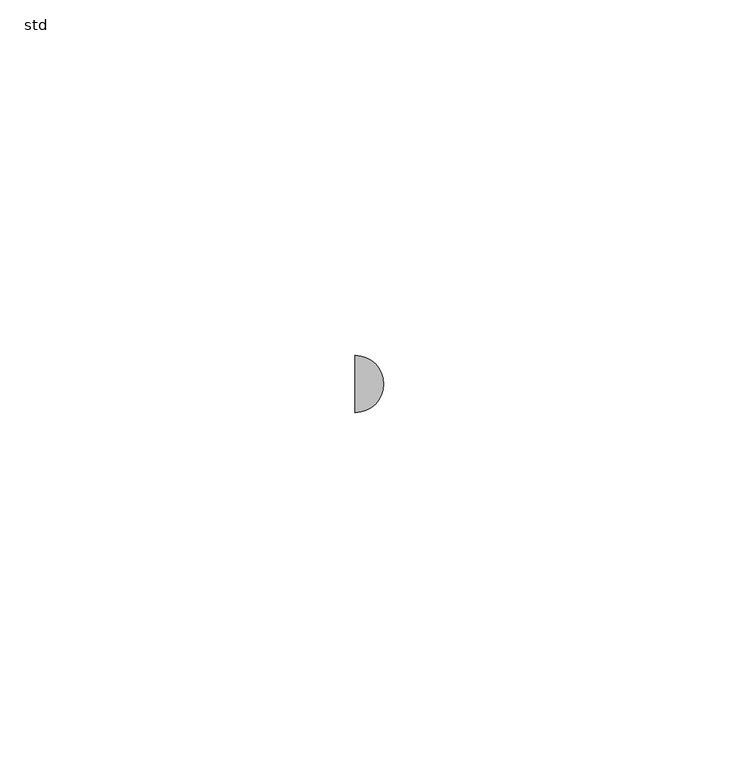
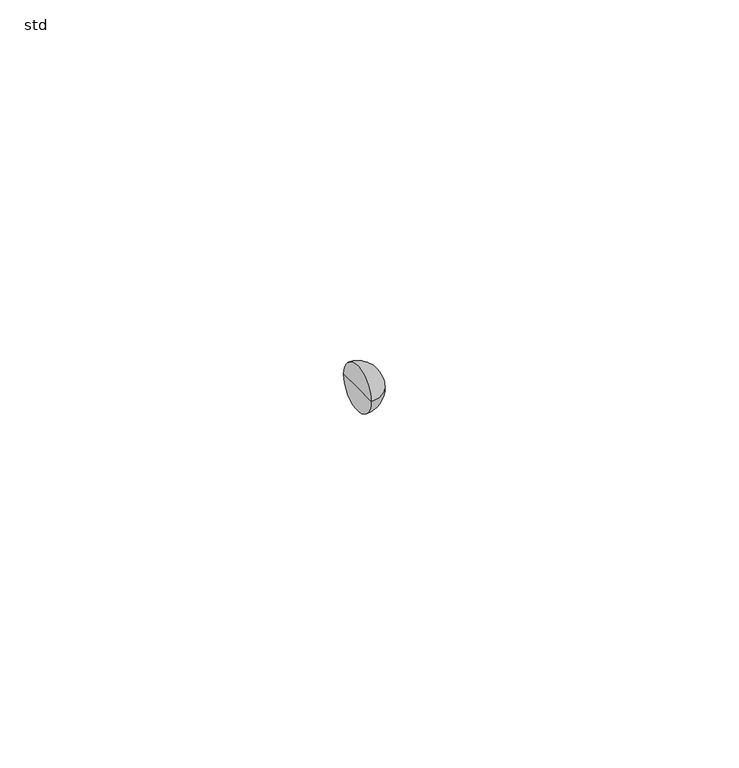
"""IFC4 building model written with IfcOpenShell, lengths in millimetres: pipe fitting geometry, PIF_ST_UN_GM-X multibranch_ACO : std."""

import ifcopenshell
import ifcopenshell.guid

model = None  # the IFC model being written
_history = None  # IfcOwnerHistory: only IFC2X3 demands one
_inside = {}  # id of a spatial element -> (the spatial element, [elements in it])
_under = {}  # id of a project, library or spatial element -> (it, [spatial elements below it])
_declared = {}  # id of a project -> (the project, [libraries it declares])
_typed = {}  # id of a type object -> (the type object, [elements of that type])
_made_of = {}  # id of a material, layer set ... -> (it, [elements and type objects made of it])


def new_model(schema):
    """Start an empty IFC model of exactly this schema.

    Asked for "IFC4X3", IfcOpenShell would pick the latest addendum, in which some entities
    have other attributes; the version numbers below select the first issue.
    IFC2X3 requires an IfcOwnerHistory on every rooted entity: one is made here for all.
    """
    global model, _history
    if schema == "IFC4X3":
        model = ifcopenshell.file(schema_version=(4, 3, 0, 0))
    else:
        model = ifcopenshell.file(schema=schema)
    _inside.clear()
    _under.clear()
    _declared.clear()
    _typed.clear()
    _made_of.clear()
    _history = None
    if model.schema == "IFC2X3":
        org = make("IfcOrganization", Name="unknown")
        user = make(
            "IfcPersonAndOrganization",
            ThePerson=make("IfcPerson", FamilyName="unknown"),
            TheOrganization=org,
        )
        app = make(
            "IfcApplication",
            ApplicationDeveloper=org,
            Version="unknown",
            ApplicationFullName="unknown",
            ApplicationIdentifier="unknown",
        )
        _history = make(
            "IfcOwnerHistory",
            OwningUser=user,
            OwningApplication=app,
            ChangeAction="ADDED",
            CreationDate=0,
        )
    return model


def make(cls, **values):
    """One entity of the class cls with the attributes given. An attribute that is None is left unset."""
    return model.create_entity(
        cls, **{name: value for name, value in values.items() if value is not None}
    )


def rooted(cls, **values):
    """An entity with a GlobalId (a new one), such as an element, a storey or a relation."""
    return make(cls, GlobalId=ifcopenshell.guid.new(), OwnerHistory=_history, **values)


def si_unit(unit_type, name, prefix=None):
    """IfcSIUnit, for example si_unit("LENGTHUNIT", "METRE", prefix="MILLI")."""
    return make("IfcSIUnit", UnitType=unit_type, Prefix=prefix, Name=name)


def assignment(units):
    """IfcUnitAssignment: the units of a project."""
    return None if units is None else make("IfcUnitAssignment", Units=units)


def point(xyz):
    """IfcCartesianPoint."""
    return None if xyz is None else make("IfcCartesianPoint", Coordinates=xyz)


def direction(xyz):
    """IfcDirection."""
    return None if xyz is None else make("IfcDirection", DirectionRatios=xyz)


def frame(location, z_axis=None, x_axis=None):
    """IfcAxis2Placement3D, a coordinate frame: its origin and axes. An axis left out is left unset."""
    return make(
        "IfcAxis2Placement3D",
        Location=point(location),
        Axis=direction(z_axis),
        RefDirection=direction(x_axis),
    )


def origin():
    """The frame at (0, 0, 0) with its axes left unset."""
    return frame((0.0, 0.0, 0.0))


def place(relative_to, where):
    """IfcLocalPlacement: puts the frame where relative to a parent placement (None: the world)."""
    return make(
        "IfcLocalPlacement", PlacementRelTo=relative_to, RelativePlacement=where
    )


def context(
    kind, dimensions, precision=None, world=None, true_north=None, identifier=None
):
    """IfcGeometricRepresentationContext, for example the 3D "Model" context."""
    return make(
        "IfcGeometricRepresentationContext",
        ContextIdentifier=identifier,
        ContextType=kind,
        CoordinateSpaceDimension=dimensions,
        Precision=precision,
        WorldCoordinateSystem=world,
        TrueNorth=true_north,
    )


def project(units=None, contexts=None):
    """IfcProject with its units and contexts."""
    return rooted(
        "IfcProject",
        Name="project",
        RepresentationContexts=contexts,
        UnitsInContext=assignment(units),
    )


def spatial(cls, under=None, at=None, **own):
    """A site, building, storey or space (cls), placed at a placement, below another one or the project."""
    s = rooted(cls, ObjectPlacement=at, **own)
    if under is not None:
        _under.setdefault(under.id(), (under, []))[1].append(s)
    return s


def circle_curve(where, radius):
    """IfcCircle in the frame where."""
    return make("IfcCircle", Position=where, Radius=radius)


def ellipse_curve(where, semi_axis1, semi_axis2):
    """IfcEllipse in the frame where."""
    return make(
        "IfcEllipse", Position=where, SemiAxis1=semi_axis1, SemiAxis2=semi_axis2
    )


def trimmed(basis, trim1, trim2, sense, master):
    """IfcTrimmedCurve: the piece of a basis curve between two trims."""
    return make(
        "IfcTrimmedCurve",
        BasisCurve=basis,
        Trim1=trim1,
        Trim2=trim2,
        SenseAgreement=sense,
        MasterRepresentation=master,
    )


def shape(context_of_items, identifier, shape_type, items):
    """IfcShapeRepresentation: the items that make up one representation, for example the "Body"."""
    return make(
        "IfcShapeRepresentation",
        ContextOfItems=context_of_items,
        RepresentationIdentifier=identifier,
        RepresentationType=shape_type,
        Items=items,
    )


def source(mapping_origin, context_of_items, identifier, shape_type, items):
    """IfcRepresentationMap: a shape defined once, which mapped items show again and again."""
    return make(
        "IfcRepresentationMap",
        MappingOrigin=mapping_origin,
        MappedRepresentation=shape(context_of_items, identifier, shape_type, items),
    )


def transform(
    local_origin,
    x_axis=None,
    y_axis=None,
    z_axis=None,
    scale=None,
    scale2=None,
    scale3=None,
    uniform=True,
):
    """IfcCartesianTransformationOperator3D, or its non-uniform kind. x_axis, y_axis, z_axis: its Axis1, 2, 3."""
    if uniform:
        return make(
            "IfcCartesianTransformationOperator3D",
            Axis1=direction(x_axis),
            Axis2=direction(y_axis),
            LocalOrigin=point(local_origin),
            Scale=scale,
            Axis3=direction(z_axis),
        )
    return make(
        "IfcCartesianTransformationOperator3DnonUniform",
        Axis1=direction(x_axis),
        Axis2=direction(y_axis),
        LocalOrigin=point(local_origin),
        Scale=scale,
        Axis3=direction(z_axis),
        Scale2=scale2,
        Scale3=scale3,
    )


def mapped(mapping_source, mapping_target):
    """IfcMappedItem: shows the shape of a source again, moved by a transform."""
    return make(
        "IfcMappedItem", MappingSource=mapping_source, MappingTarget=mapping_target
    )


def made_of(thing, what):
    """Note that an element or type object is made of a material, layer set ...; save() writes the relation."""
    if what is not None:
        _made_of.setdefault(what.id(), (what, []))[1].append(thing)
    return thing


def element(
    cls,
    number,
    at=None,
    inside=None,
    cuts=None,
    type_object=None,
    material=None,
    context=None,
    identifier="Body",
    shape_type=None,
    held_by="IfcProductDefinitionShape",
    body=None,
    shapes=None,
    **own,
):
    """One element of the class cls, such as IfcWall. Its Tag is "e" and its number.

    at: its placement. inside: the storey or other place that contains it. cuts: it is an
    opening in that element (IfcRelVoidsElement). A single representation is given by context,
    identifier, shape_type and body (its items); several are given by shapes. held_by: the class
    of the entity that holds the representations. save() writes the other relations.
    """
    e = rooted(cls, Tag="e%d" % number, ObjectPlacement=at, **own)
    if body is not None:
        shapes = [shape(context, identifier, shape_type, body)]
    if shapes is not None:
        e.Representation = make(held_by, Representations=shapes)
    if inside is not None:
        _inside.setdefault(inside.id(), (inside, []))[1].append(e)
    if cuts is not None:
        rooted(
            "IfcRelVoidsElement", RelatingBuildingElement=cuts, RelatedOpeningElement=e
        )
    if type_object is not None:
        _typed.setdefault(type_object.id(), (type_object, []))[1].append(e)
    return made_of(e, material)


def aggregate(whole, parts):
    """IfcRelAggregates: a whole, such as a stair, and the parts it consists of."""
    return rooted("IfcRelAggregates", RelatingObject=whole, RelatedObjects=parts)


def save(model, path):
    """Write the relations noted so far, then the file.

    IfcRelAggregates (storeys below a building ...), IfcRelContainedInSpatialStructure (elements
    in a storey), IfcRelDefinesByType, IfcRelAssociatesMaterial and IfcRelDeclares: one each for
    every whole, place, type object, material and project.
    """
    for whole, parts in _under.values():
        aggregate(whole, parts)
    for where, things in _inside.values():
        rooted(
            "IfcRelContainedInSpatialStructure",
            RelatedElements=things,
            RelatingStructure=where,
        )
    for kind, things in _typed.values():
        rooted("IfcRelDefinesByType", RelatedObjects=things, RelatingType=kind)
    for what, things in _made_of.values():
        rooted("IfcRelAssociatesMaterial", RelatedObjects=things, RelatingMaterial=what)
    for by, libraries in _declared.values():
        rooted("IfcRelDeclares", RelatingContext=by, RelatedDefinitions=libraries)
    model.write(path)


def plane_surface(at):
    """IfcPlane: the flat surface through the origin of the frame at, square to its z axis."""
    return make("IfcPlane", Position=at)


def revolved_surface(curve, axis_point, axis_direction):
    """IfcSurfaceOfRevolution: the curve turned about the line through axis_point along axis_direction."""
    return make(
        "IfcSurfaceOfRevolution",
        SweptCurve=make("IfcArbitraryOpenProfileDef", ProfileType="CURVE", Curve=curve),
        AxisPosition=make("IfcAxis1Placement", Location=point(axis_point), Axis=direction(axis_direction)),
    )


def advanced_brep(points, edges, surfaces, faces):
    """IfcAdvancedBrep: a solid bounded by faces that lie on surfaces and meet in shared edges.

    An edge is (start, end): straight between two places in points (the first is 0);
    or (start, end, curve); or (start, end, curve, False) where it runs against its curve.
    A face is (place in surfaces, loops), or (place, loops, False) where it looks against
    its surface's normal. A loop lists edges by number (the first is 1), with a minus sign
    where the edge is run from its end to its start. The first loop is the outer one.
    """
    corners = [point(p) for p in points]
    vertices = [make("IfcVertexPoint", VertexGeometry=c) for c in corners]
    made = []
    for start, end, *more in edges:
        made.append(
            make(
                "IfcEdgeCurve",
                EdgeStart=vertices[start],
                EdgeEnd=vertices[end],
                EdgeGeometry=more[0] if more else make("IfcPolyline", Points=[corners[start], corners[end]]),
                SameSense=more[1] if len(more) > 1 else True,
            )
        )
    hull = []
    for where, loops, *sense in faces:
        bounds = []
        for j, loop in enumerate(loops):
            ring = [make("IfcOrientedEdge", EdgeElement=made[abs(k) - 1], Orientation=k > 0) for k in loop]
            bounds.append(
                make(
                    "IfcFaceOuterBound" if j == 0 else "IfcFaceBound",
                    Bound=make("IfcEdgeLoop", EdgeList=ring),
                    Orientation=True,
                )
            )
        hull.append(make("IfcAdvancedFace", Bounds=bounds, FaceSurface=surfaces[where], SameSense=sense[0] if sense else True))
    return make("IfcAdvancedBrep", Outer=make("IfcClosedShell", CfsFaces=hull))


def std_dbb25919(model_context):
    return source(origin(), model_context, "Body", "AdvancedBrep", [
        advanced_brep(
        [(-151.0, 0.0, 0.0), (-151.0, 4.0095617, 0.0), (-151.0, -4.0095617, 0.0), (-146.9904383, 0.0, 0.0)],
        [
            (0, 1),
            (1, 2, circle_curve(frame((-151.0, 0.0, 0.0), z_axis=(-1.0, 0.0, 0.0), x_axis=(0.0, 1.0, 0.0)), 4.0095617)),
            (2, 0),
            (2, 1, circle_curve(frame((-151.0, 0.0, 0.0), z_axis=(-1.0, 0.0, 0.0), x_axis=(0.0, 1.0, 0.0)), 4.0095617)),
            (1, 3, circle_curve(frame((-151.0, 0.0, 0.0), z_axis=(0.0, 0.0, -1.0), x_axis=(1.0, 0.0, 0.0)), 4.0095617)),
            (3, 2, circle_curve(frame((-151.0, 0.0, 0.0), z_axis=(0.0, 0.0, -1.0), x_axis=(1.0, 0.0, 0.0)), 4.0095617)),
        ],
        [
            plane_surface(frame((-151.0, 0.0, 0.0), z_axis=(-1.0, 0.0, 0.0), x_axis=(0.0, 1.0, 0.0))),
            revolved_surface(trimmed(ellipse_curve(frame((-151.0, 0.0, 0.0), z_axis=(0.0, 0.0, 1.0), x_axis=(1.0, 0.0, 0.0)), 4.0095617, 4.0095617), [point((-146.9904383, 0.0, 0.0))], [point((-151.0, 4.0095617, 0.0))], True, "CARTESIAN"), (-151.0, 0.0, 0.0), (-1.0, 0.0, 0.0)),
        ],
        [
            (0, [[1, 2, 3]]),
            (0, [[-3, 4, -1]]),
            (1, [[-2, 5, 6]]),
            (1, [[-4, -6, -5]]),
        ],
    ),
    ])


if __name__ == "__main__":
    model = new_model("IFC4")
    model_context = context("Model", 3, world=origin())
    ifc_project = project(units=[si_unit("LENGTHUNIT", "METRE", prefix="MILLI")], contexts=[model_context])
    site = spatial("IfcSite", under=ifc_project)
    building = spatial("IfcBuilding", under=site)
    placement = place(None, origin())
    std_shape = std_dbb25919(model_context)
    element("IfcPipeFitting", 1, ObjectType="PIF_ST_UN_GM-X multibranch_ACO : std", at=placement, inside=building, context=model_context, shape_type="MappedRepresentation", body=[
        mapped(std_shape, transform((0.0, 0.0, 0.0), x_axis=(1.0, 0.0, 0.0), y_axis=(0.0, 1.0, 0.0), z_axis=(0.0, 0.0, 1.0))),
    ])
    save(model, "model.ifc")
